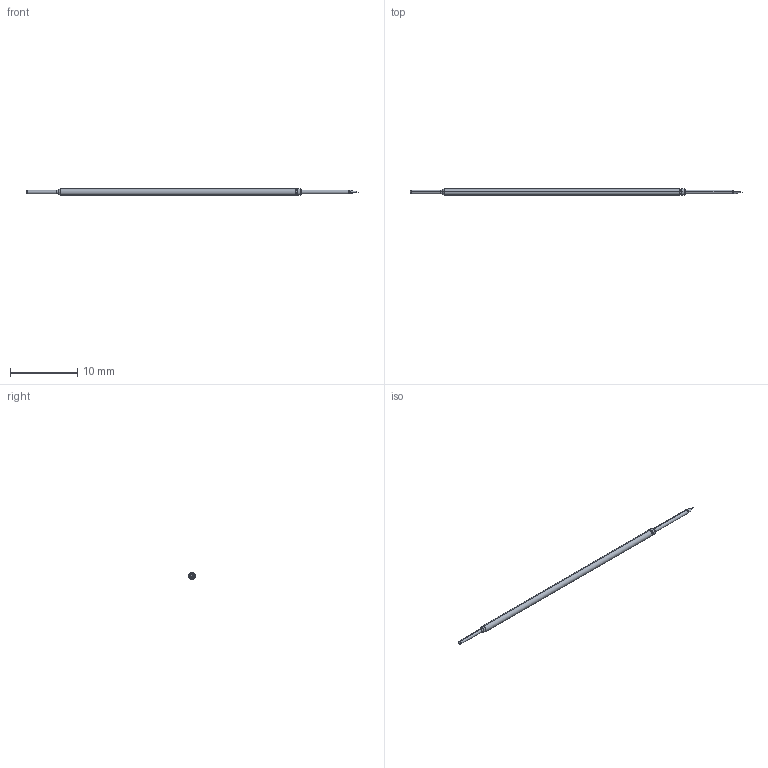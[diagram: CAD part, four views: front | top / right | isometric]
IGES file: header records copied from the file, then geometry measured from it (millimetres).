
Start section: SolidWorks IGES file using analytic representation for surfaces
Global section: file name: C:\Documents and Settings\mrumschlag\Desktop\changes\new\test\T1.IGS; native system: SolidWorks 2011; preprocessor: SolidWorks 2011; author: mrumschlag; date: 110630.142316; units: inch
Bounding box: 49.28 x 0.97 x 0.97 mm (x, y, z)
Surface area: 131.6 mm2 (no closed solid volume)
Topology: 0 solids, 0 shells, 33 faces, 186 edges, 184 vertices
Faces by surface type: revolution 18, bspline 15
